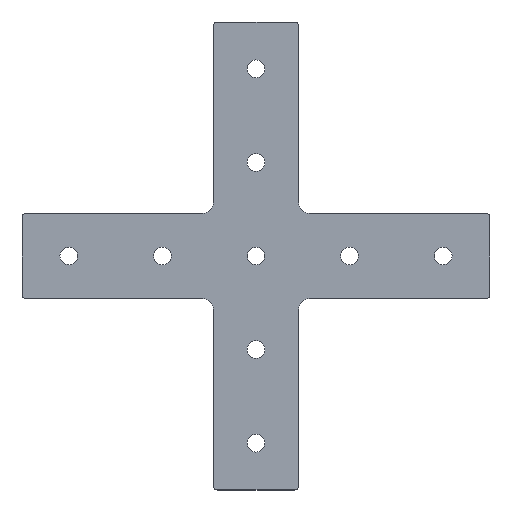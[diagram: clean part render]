
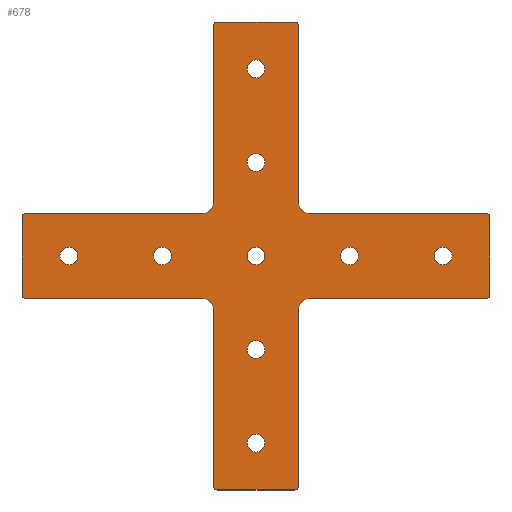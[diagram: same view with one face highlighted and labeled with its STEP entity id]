
A CAD part, top view. The second image highlights one B-rep face of the part: STEP entity #678.
In plain terms, the highlighted planar face has unit normal (0, 0, 1).
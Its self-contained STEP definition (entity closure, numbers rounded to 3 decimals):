
#21=CIRCLE('',#704,2.);
#23=CIRCLE('',#708,5.);
#25=CIRCLE('',#712,2.);
#27=CIRCLE('',#716,2.);
#29=CIRCLE('',#720,5.);
#31=CIRCLE('',#724,2.);
#33=CIRCLE('',#728,2.);
#35=CIRCLE('',#732,5.);
#37=CIRCLE('',#736,2.);
#39=CIRCLE('',#740,2.);
#41=CIRCLE('',#744,5.);
#43=CIRCLE('',#748,2.);
#53=CIRCLE('',#760,4.25);
#54=CIRCLE('',#761,4.25);
#55=CIRCLE('',#762,4.25);
#56=CIRCLE('',#763,4.25);
#57=CIRCLE('',#764,4.25);
#58=CIRCLE('',#765,4.25);
#59=CIRCLE('',#766,4.25);
#60=CIRCLE('',#767,4.25);
#61=CIRCLE('',#768,4.25);
#212=ORIENTED_EDGE('',*,*,#344,.F.);
#213=ORIENTED_EDGE('',*,*,#345,.F.);
#214=ORIENTED_EDGE('',*,*,#346,.F.);
#215=ORIENTED_EDGE('',*,*,#347,.F.);
#216=ORIENTED_EDGE('',*,*,#348,.F.);
#217=ORIENTED_EDGE('',*,*,#334,.T.);
#218=ORIENTED_EDGE('',*,*,#331,.T.);
#219=ORIENTED_EDGE('',*,*,#328,.T.);
#220=ORIENTED_EDGE('',*,*,#325,.T.);
#221=ORIENTED_EDGE('',*,*,#322,.T.);
#222=ORIENTED_EDGE('',*,*,#319,.T.);
#223=ORIENTED_EDGE('',*,*,#316,.T.);
#224=ORIENTED_EDGE('',*,*,#313,.T.);
#225=ORIENTED_EDGE('',*,*,#310,.T.);
#226=ORIENTED_EDGE('',*,*,#307,.T.);
#227=ORIENTED_EDGE('',*,*,#304,.T.);
#228=ORIENTED_EDGE('',*,*,#301,.T.);
#229=ORIENTED_EDGE('',*,*,#298,.T.);
#230=ORIENTED_EDGE('',*,*,#295,.T.);
#231=ORIENTED_EDGE('',*,*,#292,.T.);
#232=ORIENTED_EDGE('',*,*,#289,.T.);
#233=ORIENTED_EDGE('',*,*,#286,.T.);
#234=ORIENTED_EDGE('',*,*,#283,.T.);
#235=ORIENTED_EDGE('',*,*,#280,.T.);
#236=ORIENTED_EDGE('',*,*,#277,.T.);
#237=ORIENTED_EDGE('',*,*,#274,.T.);
#238=ORIENTED_EDGE('',*,*,#271,.T.);
#239=ORIENTED_EDGE('',*,*,#268,.T.);
#240=ORIENTED_EDGE('',*,*,#265,.T.);
#241=ORIENTED_EDGE('',*,*,#349,.F.);
#242=ORIENTED_EDGE('',*,*,#350,.F.);
#243=ORIENTED_EDGE('',*,*,#351,.F.);
#244=ORIENTED_EDGE('',*,*,#352,.F.);
#265=EDGE_CURVE('',#356,#355,#421,.T.);
#268=EDGE_CURVE('',#358,#356,#21,.T.);
#271=EDGE_CURVE('',#360,#358,#425,.T.);
#274=EDGE_CURVE('',#362,#360,#23,.T.);
#277=EDGE_CURVE('',#364,#362,#429,.T.);
#280=EDGE_CURVE('',#366,#364,#25,.T.);
#283=EDGE_CURVE('',#368,#366,#433,.T.);
#286=EDGE_CURVE('',#370,#368,#27,.T.);
#289=EDGE_CURVE('',#372,#370,#437,.T.);
#292=EDGE_CURVE('',#374,#372,#29,.T.);
#295=EDGE_CURVE('',#376,#374,#441,.T.);
#298=EDGE_CURVE('',#378,#376,#31,.T.);
#301=EDGE_CURVE('',#380,#378,#445,.T.);
#304=EDGE_CURVE('',#382,#380,#33,.T.);
#307=EDGE_CURVE('',#384,#382,#449,.T.);
#310=EDGE_CURVE('',#386,#384,#35,.T.);
#313=EDGE_CURVE('',#388,#386,#453,.T.);
#316=EDGE_CURVE('',#390,#388,#37,.T.);
#319=EDGE_CURVE('',#392,#390,#457,.T.);
#322=EDGE_CURVE('',#394,#392,#39,.T.);
#325=EDGE_CURVE('',#396,#394,#461,.T.);
#328=EDGE_CURVE('',#398,#396,#41,.T.);
#331=EDGE_CURVE('',#400,#398,#465,.T.);
#334=EDGE_CURVE('',#355,#400,#43,.T.);
#344=EDGE_CURVE('',#410,#410,#53,.T.);
#345=EDGE_CURVE('',#411,#411,#54,.T.);
#346=EDGE_CURVE('',#412,#412,#55,.T.);
#347=EDGE_CURVE('',#413,#413,#56,.T.);
#348=EDGE_CURVE('',#414,#414,#57,.T.);
#349=EDGE_CURVE('',#415,#415,#58,.T.);
#350=EDGE_CURVE('',#416,#416,#59,.T.);
#351=EDGE_CURVE('',#417,#417,#60,.T.);
#352=EDGE_CURVE('',#418,#418,#61,.T.);
#355=VERTEX_POINT('',#988);
#356=VERTEX_POINT('',#990);
#358=VERTEX_POINT('',#996);
#360=VERTEX_POINT('',#1002);
#362=VERTEX_POINT('',#1008);
#364=VERTEX_POINT('',#1014);
#366=VERTEX_POINT('',#1020);
#368=VERTEX_POINT('',#1026);
#370=VERTEX_POINT('',#1032);
#372=VERTEX_POINT('',#1038);
#374=VERTEX_POINT('',#1044);
#376=VERTEX_POINT('',#1050);
#378=VERTEX_POINT('',#1056);
#380=VERTEX_POINT('',#1062);
#382=VERTEX_POINT('',#1068);
#384=VERTEX_POINT('',#1074);
#386=VERTEX_POINT('',#1080);
#388=VERTEX_POINT('',#1086);
#390=VERTEX_POINT('',#1092);
#392=VERTEX_POINT('',#1098);
#394=VERTEX_POINT('',#1104);
#396=VERTEX_POINT('',#1110);
#398=VERTEX_POINT('',#1116);
#400=VERTEX_POINT('',#1122);
#410=VERTEX_POINT('',#1148);
#411=VERTEX_POINT('',#1150);
#412=VERTEX_POINT('',#1152);
#413=VERTEX_POINT('',#1154);
#414=VERTEX_POINT('',#1156);
#415=VERTEX_POINT('',#1158);
#416=VERTEX_POINT('',#1160);
#417=VERTEX_POINT('',#1162);
#418=VERTEX_POINT('',#1164);
#421=LINE('',#989,#469);
#425=LINE('',#1001,#473);
#429=LINE('',#1013,#477);
#433=LINE('',#1025,#481);
#437=LINE('',#1037,#485);
#441=LINE('',#1049,#489);
#445=LINE('',#1061,#493);
#449=LINE('',#1073,#497);
#453=LINE('',#1085,#501);
#457=LINE('',#1097,#505);
#461=LINE('',#1109,#509);
#465=LINE('',#1121,#513);
#469=VECTOR('',#784,1000.);
#473=VECTOR('',#796,1000.);
#477=VECTOR('',#808,1000.);
#481=VECTOR('',#820,1000.);
#485=VECTOR('',#832,1000.);
#489=VECTOR('',#844,1000.);
#493=VECTOR('',#856,1000.);
#497=VECTOR('',#868,1000.);
#501=VECTOR('',#880,1000.);
#505=VECTOR('',#892,1000.);
#509=VECTOR('',#904,1000.);
#513=VECTOR('',#916,1000.);
#549=EDGE_LOOP('',(#212));
#550=EDGE_LOOP('',(#213));
#551=EDGE_LOOP('',(#214));
#552=EDGE_LOOP('',(#215));
#553=EDGE_LOOP('',(#216));
#554=EDGE_LOOP('',(#217,#218,#219,#220,#221,#222,#223,#224,#225,#226,#227,
#228,#229,#230,#231,#232,#233,#234,#235,#236,#237,#238,#239,#240));
#555=EDGE_LOOP('',(#241));
#556=EDGE_LOOP('',(#242));
#557=EDGE_LOOP('',(#243));
#558=EDGE_LOOP('',(#244));
#611=FACE_BOUND('',#549,.T.);
#612=FACE_BOUND('',#550,.T.);
#613=FACE_BOUND('',#551,.T.);
#614=FACE_BOUND('',#552,.T.);
#615=FACE_BOUND('',#553,.T.);
#616=FACE_BOUND('',#554,.T.);
#617=FACE_BOUND('',#555,.T.);
#618=FACE_BOUND('',#556,.T.);
#619=FACE_BOUND('',#557,.T.);
#620=FACE_BOUND('',#558,.T.);
#652=PLANE('',#759);
#678=ADVANCED_FACE('',(#611,#612,#613,#614,#615,#616,#617,#618,#619,#620),
#652,.T.);
#704=AXIS2_PLACEMENT_3D('',#995,#790,#791);
#708=AXIS2_PLACEMENT_3D('',#1007,#802,#803);
#712=AXIS2_PLACEMENT_3D('',#1019,#814,#815);
#716=AXIS2_PLACEMENT_3D('',#1031,#826,#827);
#720=AXIS2_PLACEMENT_3D('',#1043,#838,#839);
#724=AXIS2_PLACEMENT_3D('',#1055,#850,#851);
#728=AXIS2_PLACEMENT_3D('',#1067,#862,#863);
#732=AXIS2_PLACEMENT_3D('',#1079,#874,#875);
#736=AXIS2_PLACEMENT_3D('',#1091,#886,#887);
#740=AXIS2_PLACEMENT_3D('',#1103,#898,#899);
#744=AXIS2_PLACEMENT_3D('',#1115,#910,#911);
#748=AXIS2_PLACEMENT_3D('',#1126,#922,#923);
#759=AXIS2_PLACEMENT_3D('',#1146,#944,#945);
#760=AXIS2_PLACEMENT_3D('',#1147,#946,#947);
#761=AXIS2_PLACEMENT_3D('',#1149,#948,#949);
#762=AXIS2_PLACEMENT_3D('',#1151,#950,#951);
#763=AXIS2_PLACEMENT_3D('',#1153,#952,#953);
#764=AXIS2_PLACEMENT_3D('',#1155,#954,#955);
#765=AXIS2_PLACEMENT_3D('',#1157,#956,#957);
#766=AXIS2_PLACEMENT_3D('',#1159,#958,#959);
#767=AXIS2_PLACEMENT_3D('',#1161,#960,#961);
#768=AXIS2_PLACEMENT_3D('',#1163,#962,#963);
#784=DIRECTION('',(-1.,0.,0.));
#790=DIRECTION('',(0.,0.,1.));
#791=DIRECTION('',(1.,0.,0.));
#796=DIRECTION('',(0.,1.,0.));
#802=DIRECTION('',(0.,0.,-1.));
#803=DIRECTION('',(1.,0.,0.));
#808=DIRECTION('',(-1.,0.,0.));
#814=DIRECTION('',(0.,0.,1.));
#815=DIRECTION('',(1.,0.,0.));
#820=DIRECTION('',(0.,1.,0.));
#826=DIRECTION('',(0.,0.,1.));
#827=DIRECTION('',(1.,0.,0.));
#832=DIRECTION('',(1.,0.,0.));
#838=DIRECTION('',(0.,0.,-1.));
#839=DIRECTION('',(1.,0.,0.));
#844=DIRECTION('',(0.,1.,0.));
#850=DIRECTION('',(0.,0.,1.));
#851=DIRECTION('',(1.,0.,0.));
#856=DIRECTION('',(1.,0.,0.));
#862=DIRECTION('',(0.,0.,1.));
#863=DIRECTION('',(1.,0.,0.));
#868=DIRECTION('',(0.,-1.,0.));
#874=DIRECTION('',(0.,0.,-1.));
#875=DIRECTION('',(1.,0.,0.));
#880=DIRECTION('',(1.,0.,0.));
#886=DIRECTION('',(0.,0.,1.));
#887=DIRECTION('',(1.,0.,0.));
#892=DIRECTION('',(0.,-1.,0.));
#898=DIRECTION('',(0.,0.,1.));
#899=DIRECTION('',(1.,0.,0.));
#904=DIRECTION('',(-1.,0.,0.));
#910=DIRECTION('',(0.,0.,-1.));
#911=DIRECTION('',(1.,0.,0.));
#916=DIRECTION('',(0.,-1.,0.));
#922=DIRECTION('',(0.,0.,1.));
#923=DIRECTION('',(1.,0.,0.));
#944=DIRECTION('',(0.,0.,1.));
#945=DIRECTION('',(1.,0.,0.));
#946=DIRECTION('',(0.,0.,1.));
#947=DIRECTION('',(1.,0.,0.));
#948=DIRECTION('',(0.,0.,1.));
#949=DIRECTION('',(1.,0.,0.));
#950=DIRECTION('',(0.,0.,1.));
#951=DIRECTION('',(1.,0.,0.));
#952=DIRECTION('',(0.,0.,1.));
#953=DIRECTION('',(1.,0.,0.));
#954=DIRECTION('',(0.,0.,1.));
#955=DIRECTION('',(1.,0.,0.));
#956=DIRECTION('',(0.,0.,1.));
#957=DIRECTION('',(1.,0.,0.));
#958=DIRECTION('',(0.,0.,1.));
#959=DIRECTION('',(1.,0.,0.));
#960=DIRECTION('',(0.,0.,1.));
#961=DIRECTION('',(1.,0.,0.));
#962=DIRECTION('',(0.,0.,1.));
#963=DIRECTION('',(1.,0.,0.));
#988=CARTESIAN_POINT('',(-18.5,112.5,3.));
#989=CARTESIAN_POINT('',(-18.5,112.5,3.));
#990=CARTESIAN_POINT('',(18.5,112.5,3.));
#995=CARTESIAN_POINT('',(18.5,110.5,3.));
#996=CARTESIAN_POINT('',(20.5,110.5,3.));
#1001=CARTESIAN_POINT('',(20.5,110.5,3.));
#1002=CARTESIAN_POINT('',(20.5,25.5,3.));
#1007=CARTESIAN_POINT('',(25.5,25.5,3.));
#1008=CARTESIAN_POINT('',(25.5,20.5,3.));
#1013=CARTESIAN_POINT('',(25.5,20.5,3.));
#1014=CARTESIAN_POINT('',(110.5,20.5,3.));
#1019=CARTESIAN_POINT('',(110.5,18.5,3.));
#1020=CARTESIAN_POINT('',(112.5,18.5,3.));
#1025=CARTESIAN_POINT('',(112.5,18.5,3.));
#1026=CARTESIAN_POINT('',(112.5,-18.5,3.));
#1031=CARTESIAN_POINT('',(110.5,-18.5,3.));
#1032=CARTESIAN_POINT('',(110.5,-20.5,3.));
#1037=CARTESIAN_POINT('',(25.5,-20.5,3.));
#1038=CARTESIAN_POINT('',(25.5,-20.5,3.));
#1043=CARTESIAN_POINT('',(25.5,-25.5,3.));
#1044=CARTESIAN_POINT('',(20.5,-25.5,3.));
#1049=CARTESIAN_POINT('',(20.5,-25.5,3.));
#1050=CARTESIAN_POINT('',(20.5,-110.5,3.));
#1055=CARTESIAN_POINT('',(18.5,-110.5,3.));
#1056=CARTESIAN_POINT('',(18.5,-112.5,3.));
#1061=CARTESIAN_POINT('',(-18.5,-112.5,3.));
#1062=CARTESIAN_POINT('',(-18.5,-112.5,3.));
#1067=CARTESIAN_POINT('',(-18.5,-110.5,3.));
#1068=CARTESIAN_POINT('',(-20.5,-110.5,3.));
#1073=CARTESIAN_POINT('',(-20.5,-25.5,3.));
#1074=CARTESIAN_POINT('',(-20.5,-25.5,3.));
#1079=CARTESIAN_POINT('',(-25.5,-25.5,3.));
#1080=CARTESIAN_POINT('',(-25.5,-20.5,3.));
#1085=CARTESIAN_POINT('',(-110.5,-20.5,3.));
#1086=CARTESIAN_POINT('',(-110.5,-20.5,3.));
#1091=CARTESIAN_POINT('',(-110.5,-18.5,3.));
#1092=CARTESIAN_POINT('',(-112.5,-18.5,3.));
#1097=CARTESIAN_POINT('',(-112.5,-18.5,3.));
#1098=CARTESIAN_POINT('',(-112.5,18.5,3.));
#1103=CARTESIAN_POINT('',(-110.5,18.5,3.));
#1104=CARTESIAN_POINT('',(-110.5,20.5,3.));
#1109=CARTESIAN_POINT('',(-110.5,20.5,3.));
#1110=CARTESIAN_POINT('',(-25.5,20.5,3.));
#1115=CARTESIAN_POINT('',(-25.5,25.5,3.));
#1116=CARTESIAN_POINT('',(-20.5,25.5,3.));
#1121=CARTESIAN_POINT('',(-20.5,110.5,3.));
#1122=CARTESIAN_POINT('',(-20.5,110.5,3.));
#1126=CARTESIAN_POINT('',(-18.5,110.5,3.));
#1146=CARTESIAN_POINT('',(-18.5,110.5,3.));
#1147=CARTESIAN_POINT('',(-90.,0.,3.));
#1148=CARTESIAN_POINT('',(-85.75,0.,3.));
#1149=CARTESIAN_POINT('',(90.,0.,3.));
#1150=CARTESIAN_POINT('',(94.25,0.,3.));
#1151=CARTESIAN_POINT('',(0.,-90.,3.));
#1152=CARTESIAN_POINT('',(4.25,-90.,3.));
#1153=CARTESIAN_POINT('',(0.,90.,3.));
#1154=CARTESIAN_POINT('',(4.25,90.,3.));
#1155=CARTESIAN_POINT('',(0.,0.,3.));
#1156=CARTESIAN_POINT('',(4.25,0.,3.));
#1157=CARTESIAN_POINT('',(0.,45.,3.));
#1158=CARTESIAN_POINT('',(4.25,45.,3.));
#1159=CARTESIAN_POINT('',(0.,-45.,3.));
#1160=CARTESIAN_POINT('',(4.25,-45.,3.));
#1161=CARTESIAN_POINT('',(45.,0.,3.));
#1162=CARTESIAN_POINT('',(49.25,0.,3.));
#1163=CARTESIAN_POINT('',(-45.,0.,3.));
#1164=CARTESIAN_POINT('',(-40.75,0.,3.));
